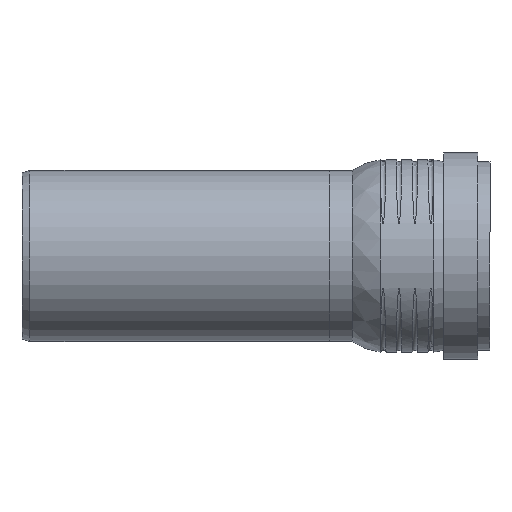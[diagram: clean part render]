
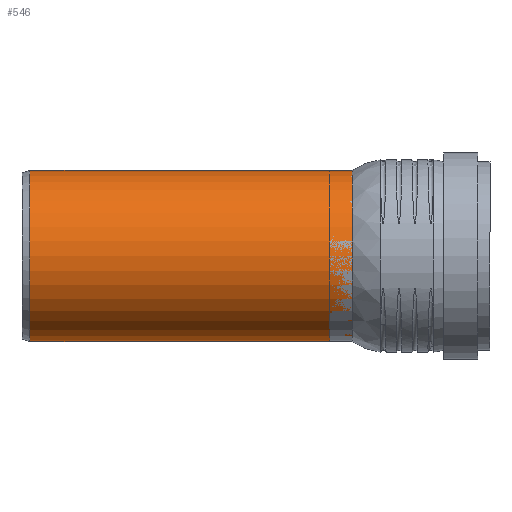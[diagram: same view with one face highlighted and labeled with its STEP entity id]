
A CAD part, top view. The second image highlights one B-rep face of the part: STEP entity #546.
In plain terms, the highlighted cylindrical face has radius 37.6 mm (diameter 75.2 mm), a full revolution.
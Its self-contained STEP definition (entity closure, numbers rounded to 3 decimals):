
#67=CYLINDRICAL_SURFACE('',#592,37.6);
#88=FACE_BOUND('',#158,.T.);
#122=FACE_OUTER_BOUND('',#157,.T.);
#157=EDGE_LOOP('',(#376));
#158=EDGE_LOOP('',(#377));
#221=CIRCLE('',#588,37.6);
#224=CIRCLE('',#593,37.6);
#250=VERTEX_POINT('',#786);
#253=VERTEX_POINT('',#794);
#307=EDGE_CURVE('',#250,#250,#221,.T.);
#310=EDGE_CURVE('',#253,#253,#224,.T.);
#376=ORIENTED_EDGE('',*,*,#310,.F.);
#377=ORIENTED_EDGE('',*,*,#307,.F.);
#546=ADVANCED_FACE('',(#122,#88),#67,.T.);
#588=AXIS2_PLACEMENT_3D('',#787,#656,#657);
#592=AXIS2_PLACEMENT_3D('',#793,#664,#665);
#593=AXIS2_PLACEMENT_3D('',#795,#666,#667);
#656=DIRECTION('center_axis',(-1.,0.,0.));
#657=DIRECTION('ref_axis',(0.,1.,0.));
#664=DIRECTION('center_axis',(1.,0.,0.));
#665=DIRECTION('ref_axis',(0.,1.,0.));
#666=DIRECTION('center_axis',(1.,0.,0.));
#667=DIRECTION('ref_axis',(0.,1.,0.));
#786=CARTESIAN_POINT('',(-69.75,-37.6,0.));
#787=CARTESIAN_POINT('Origin',(-69.75,0.,0.));
#793=CARTESIAN_POINT('Origin',(0.,0.,
0.));
#794=CARTESIAN_POINT('',(73.25,-37.6,0.));
#795=CARTESIAN_POINT('Origin',(73.25,0.,0.));
